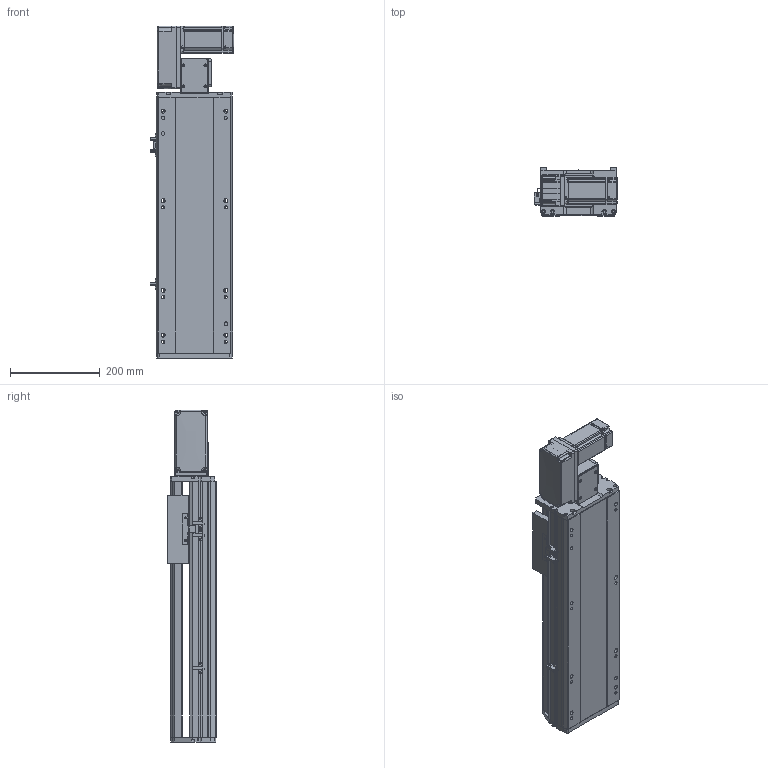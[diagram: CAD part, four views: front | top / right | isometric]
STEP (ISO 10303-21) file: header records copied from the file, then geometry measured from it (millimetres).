
FILE_DESCRIPTION (( 'STEP AP214' ), '1' );
FILE_NAME ('RTB17S-XX-300-L-M40-C4.STEP', '2025-12-11T03:50:10', ( '' ), ( '' ), 'SwSTEP 2.0', 'SolidWorks 2018', '' );
FILE_SCHEMA (( 'AUTOMOTIVE_DESIGN' ));
Length unit declared in the file: millimetre
Products named in the file (14): RMP17S-L-014-T20--々湍釱^RTB17S-L-々湍釱蚾饜-400W_RTB17S-XX-XX-L-M40-C4; 400W侜督萇儂^RTB17S-XX-XX-L-M40-C4; RTB17S-L-001耜醱啣^RTB17S-XX-XX-L-M40-C4; RTB14-L-017P^RTB17S-L-々湍釱蚾饜-400W_RTB17S-XX-XX-L-M40-C4; RTB17S-L-004佪裝蹟譫蟀諉釱^RTB17S-XX-XX-L-M40-C4; RTB14-L-018P^RTB17S-L-々湍釱蚾饜-400W_RTB17S-XX-XX-L-M40-C4; RTB17-R-011菁釱^RTB17S-XX-XX-L-M40-C4; RTB14-L-005P--轴承塑胶压盖^RTB17S-L-皮带座装配-400W_RTB17S-XX-XX-L-M40-C4; RTH13-BL-012覜茼え俋离^RTB17S-XX-XX-L-M40-C4; RTB17S-XX-300-L-M40-C4; OMRON EE-SX672 传感器^RTB17S-XX-XX-L-M40-C4; RTB14-L-008-M20--萇儂啣^RTB17S-L-々湍釱蚾饜-400W_RTB17S-XX-XX-L-M40-C4; RTB17S-L-007奻裔^RTB17S-XX-XX-L-M40-C4; RTB17S-L-々湍釱蚾饜-400W^RTB17S-XX-XX-L-M40-C4
Assembly tree (16 placements, depth 3):
  RTB17S-XX-300-L-M40-C4
    RTB17-R-011菁釱^RTB17S-XX-XX-L-M40-C4
    RTB17S-L-007奻裔^RTB17S-XX-XX-L-M40-C4
    OMRON EE-SX672 传感器^RTB17S-XX-XX-L-M40-C4  x3
    RTB17S-L-001耜醱啣^RTB17S-XX-XX-L-M40-C4
    400W侜督萇儂^RTB17S-XX-XX-L-M40-C4
    RTB17S-L-004佪裝蹟譫蟀諉釱^RTB17S-XX-XX-L-M40-C4
    RTH13-BL-012覜茼え俋离^RTB17S-XX-XX-L-M40-C4
    RTB17S-L-々湍釱蚾饜-400W^RTB17S-XX-XX-L-M40-C4
      RMP17S-L-014-T20--々湍釱^RTB17S-L-々湍釱蚾饜-400W_RTB17S-XX-XX-L-M40-C4
      RTB14-L-005P--轴承塑胶压盖^RTB17S-L-皮带座装配-400W_RTB17S-XX-XX-L-M40-C4
      RTB14-L-008-M20--萇儂啣^RTB17S-L-々湍釱蚾饜-400W_RTB17S-XX-XX-L-M40-C4
      RTB14-L-017P^RTB17S-L-々湍釱蚾饜-400W_RTB17S-XX-XX-L-M40-C4  x2
      RTB14-L-018P^RTB17S-L-々湍釱蚾饜-400W_RTB17S-XX-XX-L-M40-C4
Bounding box: 186 x 108 x 741 mm (x, y, z)
Volume: 6663312.5 mm3; surface area: 876460.2 mm2
Topology: 15 solids, 15 shells, 2157 faces, 5925 edges, 3861 vertices
Faces by surface type: plane 1062, cylinder 647, bspline 301, cone 139, torus 8
Entity records: 60329 total; most frequent: CARTESIAN_POINT 16730, ORIENTED_EDGE 8694, DIRECTION 8126, EDGE_CURVE 4347, VERTEX_POINT 2849, AXIS2_PLACEMENT_3D 2779, VECTOR 2568, LINE 2568
